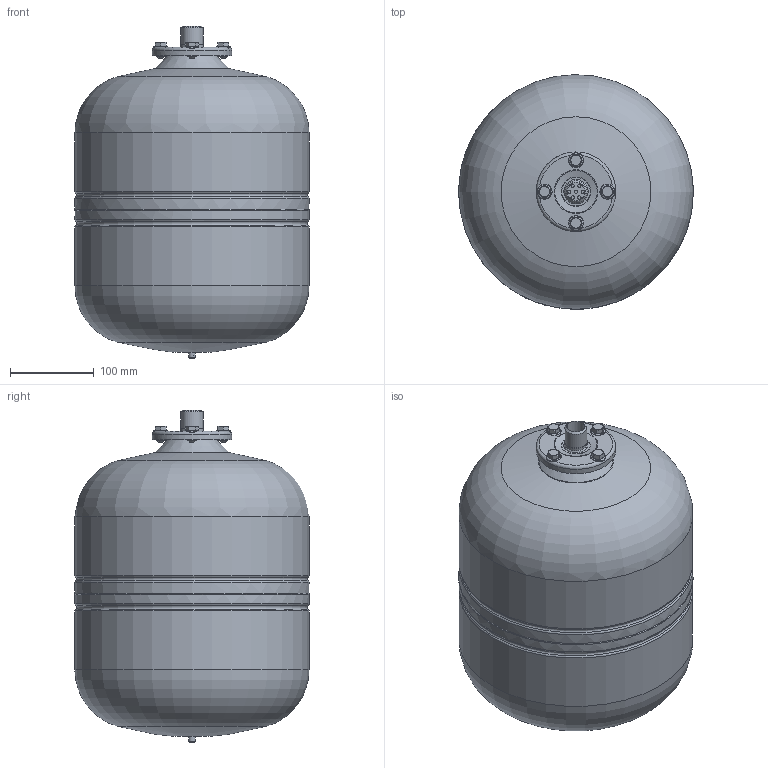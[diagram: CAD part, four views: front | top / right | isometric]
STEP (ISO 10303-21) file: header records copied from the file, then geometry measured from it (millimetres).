
FILE_DESCRIPTION(('STEP AP214'), '1');
FILE_NAME('WRV-18', '', ('UNSPECIFIED'), ('UNSPECIFIED'), 'ASCON STEP Converter 1.3', 'ASCON Math Kernel', '');
FILE_SCHEMA(('AUTOMOTIVE_DESIGN { 1 0 10303 214 3 1 1}'));
Length unit declared in the file: millimetre
Bounding box: 280.53 x 280.48 x 397 mm (x, y, z)
Volume: 18553458 mm3; surface area: 373290.9 mm2
Topology: 1 solids, 9 shells, 225 faces, 538 edges, 354 vertices
Faces by surface type: plane 118, cylinder 37, cone 27, torus 25, bspline 16, sphere 2
Full cylindrical faces by diameter (mm): 4 x7, 5.5 x1, 8 x9, 9 x4, 10.6 x4, 21.2 x1, 26.442 x1, 26.8 x1, 95 x1, 280 x4
Entity records: 12566 total; most frequent: CARTESIAN_POINT 5748, DIRECTION 1060, ORIENTED_EDGE 932, AXIS2_PLACEMENT_3D 479, EDGE_CURVE 466, VERTEX_POINT 352, EDGE_LOOP 326, FACE_BOUND 302
